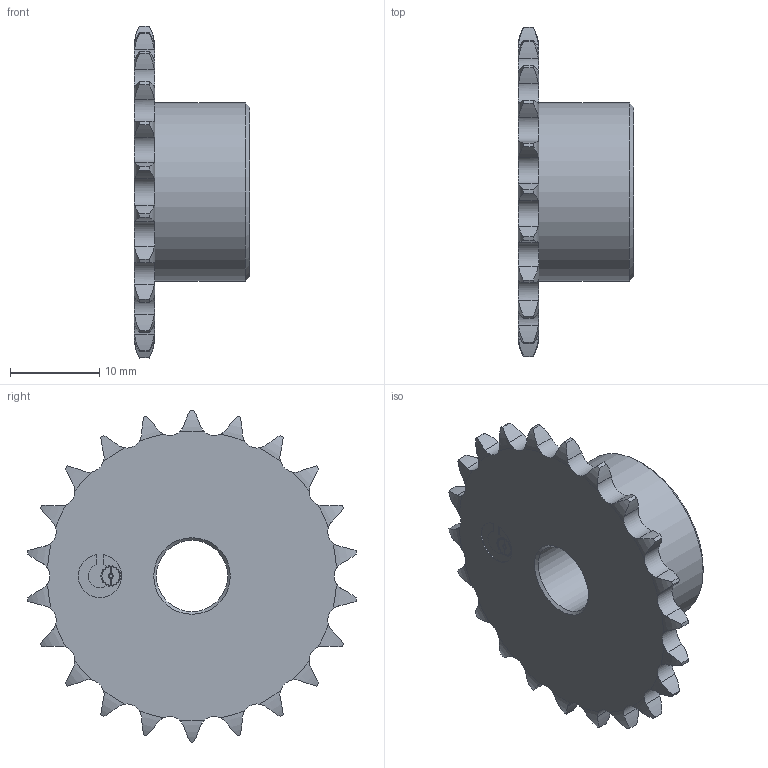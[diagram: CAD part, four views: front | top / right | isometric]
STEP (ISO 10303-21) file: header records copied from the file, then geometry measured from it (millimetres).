
FILE_DESCRIPTION(/* description */ (''),/* implementation_level */ '2;1');
FILE_NAME(/* name */ 'C:\Users\luca.leone\Desktop\DIN8187 5x2.5\DIN8187 5x2.5 - 3D\10105022.stp',/* time_stamp */ '2022-09-13T15:18:40+02:00',/* author */ ('luca.leone'),/* organization */ (''),/* preprocessor_version */ 'ST-DEVELOPER v18.1',/* originating_system */ 'Autodesk Inventor 2022',/* authorisation */ '');
FILE_SCHEMA (('AUTOMOTIVE_DESIGN { 1 0 10303 214 3 1 1 }'));
Length unit declared in the file: millimetre
Products named in the file (1): 10105022
Bounding box: 13 x 36.97 x 37.3 mm (x, y, z)
Volume: 4748 mm3; surface area: 3019.3 mm2
Topology: 1 solids, 1 shells, 232 faces, 673 edges, 447 vertices
Faces by surface type: cylinder 132, plane 53, torus 44, cone 3
Full cylindrical faces by diameter (mm): 0.402 x1, 8 x1, 20 x1
Entity records: 8259 total; most frequent: CARTESIAN_POINT 2217, ORIENTED_EDGE 1346, DIRECTION 1186, EDGE_CURVE 673, AXIS2_PLACEMENT_3D 456, VERTEX_POINT 447, LINE 274, VECTOR 274
